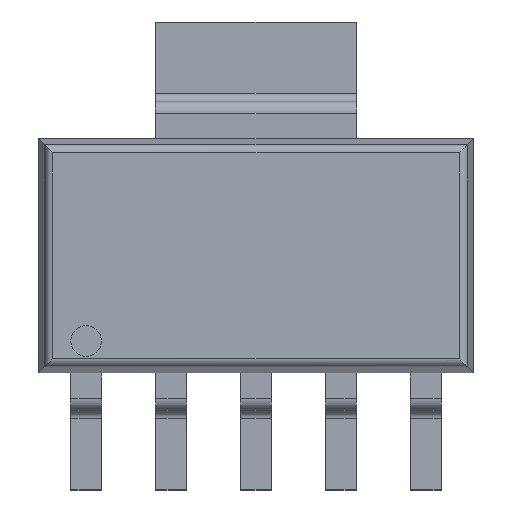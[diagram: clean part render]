
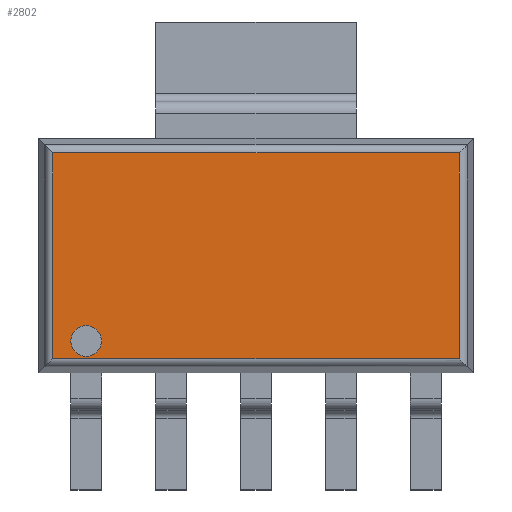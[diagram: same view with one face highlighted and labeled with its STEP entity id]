
A CAD part, top view. The second image highlights one B-rep face of the part: STEP entity #2802.
In plain terms, the highlighted planar face has unit normal (0, 0, 1).
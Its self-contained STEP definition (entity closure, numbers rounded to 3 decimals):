
#2743 = CARTESIAN_POINT ( 'NONE',  ( -2.54, -1.505, 1.8 ) ) ;
#2744 = VERTEX_POINT ( 'NONE', #2743 ) ;
#2745 = CARTESIAN_POINT ( 'NONE',  ( -2.54, -1.045, 1.8 ) ) ;
#2746 = VERTEX_POINT ( 'NONE', #2745 ) ;
#2747 = CARTESIAN_POINT ( 'NONE',  ( -2.54, -1.275, 1.8 ) ) ;
#2748 = DIRECTION ( 'NONE',  ( 0., 0., 1. ) ) ;
#2749 = DIRECTION ( 'NONE',  ( 0., -1., 0. ) ) ;
#2750 = AXIS2_PLACEMENT_3D ( 'NONE', #2747, #2748, #2749 ) ;
#2751 = CIRCLE ( 'NONE', #2750, 0.23) ;
#2752 = EDGE_CURVE ( 'NONE', #2744, #2746, #2751, .T. ) ;
#2753 = ORIENTED_EDGE ( 'NONE', *, *, #2752, .F. ) ;
#2754 = CARTESIAN_POINT ( 'NONE',  ( -2.54, -1.275, 1.8 ) ) ;
#2755 = DIRECTION ( 'NONE',  ( 0., 0., 1. ) ) ;
#2756 = DIRECTION ( 'NONE',  ( 0., -1., 0. ) ) ;
#2757 = AXIS2_PLACEMENT_3D ( 'NONE', #2754, #2755, #2756 ) ;
#2758 = CIRCLE ( 'NONE', #2757, 0.23) ;
#2759 = EDGE_CURVE ( 'NONE', #2746, #2744, #2758, .T. ) ;
#2760 = ORIENTED_EDGE ( 'NONE', *, *, #2759, .F. ) ;
#2761 = EDGE_LOOP ( 'NONE', ( #2753, #2760 ) ) ;
#2762 = FACE_BOUND ( 'NONE', #2761, .T. ) ;
#2763 = CARTESIAN_POINT ( 'NONE',  ( 3.039, -1.539, 1.8 ) ) ;
#2764 = VERTEX_POINT ( 'NONE', #2763 ) ;
#2765 = CARTESIAN_POINT ( 'NONE',  ( 3.039, 1.539, 1.8 ) ) ;
#2766 = VERTEX_POINT ( 'NONE', #2765 ) ;
#2767 = CARTESIAN_POINT ( 'NONE',  ( 3.039, 1.642, 1.8 ) ) ;
#2768 = DIRECTION ( 'NONE',  ( 0., 1., 0. ) ) ;
#2769 = VECTOR ( 'NONE', #2768, 1000. ) ;
#2770 = LINE ( 'NONE', #2767, #2769 ) ;
#2771 = EDGE_CURVE ( 'NONE', #2764, #2766, #2770, .T. ) ;
#2772 = ORIENTED_EDGE ( 'NONE', *, *, #2771, .T. ) ;
#2773 = CARTESIAN_POINT ( 'NONE',  ( -3.039, 1.539, 1.8 ) ) ;
#2774 = VERTEX_POINT ( 'NONE', #2773 ) ;
#2775 = CARTESIAN_POINT ( 'NONE',  ( -3.142, 1.539, 1.8 ) ) ;
#2776 = DIRECTION ( 'NONE',  ( -1., 0., 0. ) ) ;
#2777 = VECTOR ( 'NONE', #2776, 1000. ) ;
#2778 = LINE ( 'NONE', #2775, #2777 ) ;
#2779 = EDGE_CURVE ( 'NONE', #2766, #2774, #2778, .T. ) ;
#2780 = ORIENTED_EDGE ( 'NONE', *, *, #2779, .T. ) ;
#2781 = CARTESIAN_POINT ( 'NONE',  ( -3.039, -1.539, 1.8 ) ) ;
#2782 = VERTEX_POINT ( 'NONE', #2781 ) ;
#2783 = CARTESIAN_POINT ( 'NONE',  ( -3.039, -1.642, 1.8 ) ) ;
#2784 = DIRECTION ( 'NONE',  ( 0., -1., 0. ) ) ;
#2785 = VECTOR ( 'NONE', #2784, 1000. ) ;
#2786 = LINE ( 'NONE', #2783, #2785 ) ;
#2787 = EDGE_CURVE ( 'NONE', #2774, #2782, #2786, .T. ) ;
#2788 = ORIENTED_EDGE ( 'NONE', *, *, #2787, .T. ) ;
#2789 = CARTESIAN_POINT ( 'NONE',  ( 3.142, -1.539, 1.8 ) ) ;
#2790 = DIRECTION ( 'NONE',  ( 1., 0., 0. ) ) ;
#2791 = VECTOR ( 'NONE', #2790, 1000. ) ;
#2792 = LINE ( 'NONE', #2789, #2791 ) ;
#2793 = EDGE_CURVE ( 'NONE', #2782, #2764, #2792, .T. ) ;
#2794 = ORIENTED_EDGE ( 'NONE', *, *, #2793, .T. ) ;
#2795 = EDGE_LOOP ( 'NONE', ( #2772, #2780, #2788, #2794 ) ) ;
#2796 = FACE_OUTER_BOUND ( 'NONE', #2795, .T. ) ;
#2797 = CARTESIAN_POINT ( 'NONE',  ( 1.47, -0.768, 1.8 ) ) ;
#2798 = DIRECTION ( 'NONE',  ( 0., 0., -1. ) ) ;
#2799 = DIRECTION ( 'NONE',  ( 0., 1., 0. ) ) ;
#2800 = AXIS2_PLACEMENT_3D ( 'NONE', #2797, #2798, #2799 ) ;
#2801 = PLANE ( 'NONE', #2800 ) ;
#2802 = ADVANCED_FACE ( 'NONE', ( #2762, #2796 ), #2801, .F. ) ;
